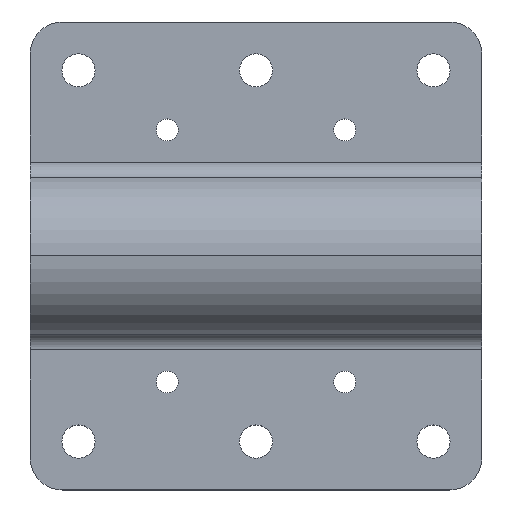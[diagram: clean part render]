
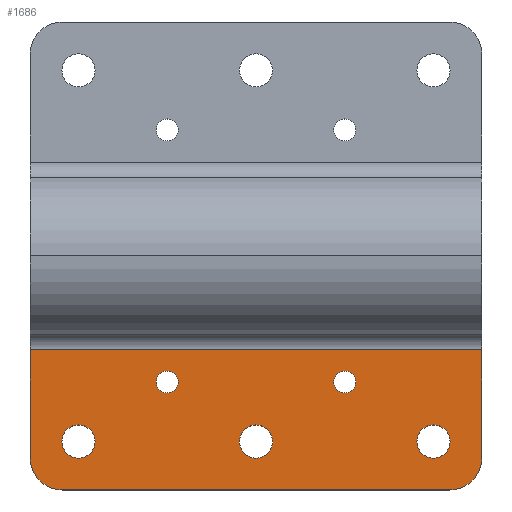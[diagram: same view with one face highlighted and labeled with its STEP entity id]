
A CAD part, top view. The second image highlights one B-rep face of the part: STEP entity #1686.
In plain terms, the highlighted planar face has unit normal (0, 0, 1).
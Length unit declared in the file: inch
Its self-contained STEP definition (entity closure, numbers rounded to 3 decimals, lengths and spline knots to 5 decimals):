
#26 = CARTESIAN_POINT ( 'NONE',  ( -1.75, 0.6, 0.125 ) ) ;
#38 = CIRCLE ( 'NONE', #898, 0.25 ) ;
#49 = VECTOR ( 'NONE', #852, 39.37008 ) ;
#51 = EDGE_CURVE ( 'NONE', #819, #878, #78, .T. ) ;
#58 = CARTESIAN_POINT ( 'NONE',  ( 0., 0., 0.125 ) ) ;
#61 = DIRECTION ( 'NONE',  ( 0., -1., 0. ) ) ;
#78 = CIRCLE ( 'NONE', #952, 0.25 ) ;
#95 = DIRECTION ( 'NONE',  ( 0., 0., 1. ) ) ;
#114 = CARTESIAN_POINT ( 'NONE',  ( -1.5035, 0.725, 0.125 ) ) ;
#140 = VERTEX_POINT ( 'NONE', #2581 ) ;
#149 = CARTESIAN_POINT ( 'NONE',  ( 1.375, 0.725, 0.125 ) ) ;
#154 = ORIENTED_EDGE ( 'NONE', *, *, #398, .T. ) ;
#175 = ORIENTED_EDGE ( 'NONE', *, *, #880, .T. ) ;
#181 = LINE ( 'NONE', #658, #49 ) ;
#232 = CARTESIAN_POINT ( 'NONE',  ( -1.75, 1.43632, 0.125 ) ) ;
#242 = DIRECTION ( 'NONE',  ( 0., -1., 0. ) ) ;
#274 = DIRECTION ( 'NONE',  ( 1., 0., 0. ) ) ;
#279 = ORIENTED_EDGE ( 'NONE', *, *, #558, .T. ) ;
#303 = EDGE_CURVE ( 'NONE', #1390, #1741, #38, .T. ) ;
#323 = FACE_BOUND ( 'NONE', #2411, .T. ) ;
#324 = EDGE_CURVE ( 'NONE', #1332, #967, #1663, .T. ) ;
#327 = AXIS2_PLACEMENT_3D ( 'NONE', #400, #1718, #1034 ) ;
#333 = DIRECTION ( 'NONE',  ( 0., 0., -1. ) ) ;
#350 = CARTESIAN_POINT ( 'NONE',  ( 0., 0.725, 0.125 ) ) ;
#354 = ORIENTED_EDGE ( 'NONE', *, *, #2623, .T. ) ;
#367 = DIRECTION ( 'NONE',  ( 1., 0., 0. ) ) ;
#371 = DIRECTION ( 'NONE',  ( 0., 0., -1. ) ) ;
#398 = EDGE_CURVE ( 'NONE', #2743, #2585, #2093, .T. ) ;
#400 = CARTESIAN_POINT ( 'NONE',  ( 0.6875, 1.18632, 0.125 ) ) ;
#426 = CIRCLE ( 'NONE', #2364, 0.085 ) ;
#434 = CIRCLE ( 'NONE', #327, 0.085 ) ;
#440 = DIRECTION ( 'NONE',  ( 0., 0., 1. ) ) ;
#506 = CARTESIAN_POINT ( 'NONE',  ( -0.6875, 1.27132, 0.125 ) ) ;
#511 = AXIS2_PLACEMENT_3D ( 'NONE', #1151, #2656, #1367 ) ;
#531 = CARTESIAN_POINT ( 'NONE',  ( 1.375, 0.725, 0.125 ) ) ;
#554 = LINE ( 'NONE', #26, #1610 ) ;
#555 = DIRECTION ( 'NONE',  ( -1., 0., 0. ) ) ;
#556 = VECTOR ( 'NONE', #2478, 39.37008 ) ;
#558 = EDGE_CURVE ( 'NONE', #1323, #1706, #1768, .T. ) ;
#563 = DIRECTION ( 'NONE',  ( 1., 0., 0. ) ) ;
#564 = CARTESIAN_POINT ( 'NONE',  ( 1.2465, 0.725, 0.125 ) ) ;
#573 = AXIS2_PLACEMENT_3D ( 'NONE', #1016, #2519, #1237 ) ;
#579 = CARTESIAN_POINT ( 'NONE',  ( 1.5035, 0.725, 0.125 ) ) ;
#632 = AXIS2_PLACEMENT_3D ( 'NONE', #1631, #371, #1846 ) ;
#658 = CARTESIAN_POINT ( 'NONE',  ( 0., 0.35, 0.125 ) ) ;
#731 = DIRECTION ( 'NONE',  ( 1., 0., 0. ) ) ;
#819 = VERTEX_POINT ( 'NONE', #1800 ) ;
#829 = VERTEX_POINT ( 'NONE', #114 ) ;
#852 = DIRECTION ( 'NONE',  ( 1., 0., 0. ) ) ;
#875 = FACE_BOUND ( 'NONE', #2486, .T. ) ;
#878 = VERTEX_POINT ( 'NONE', #2036 ) ;
#879 = EDGE_CURVE ( 'NONE', #1706, #1323, #2598, .T. ) ;
#880 = EDGE_CURVE ( 'NONE', #1660, #2455, #888, .T. ) ;
#888 = LINE ( 'NONE', #2688, #2529 ) ;
#898 = AXIS2_PLACEMENT_3D ( 'NONE', #1360, #95, #1576 ) ;
#912 = CARTESIAN_POINT ( 'NONE',  ( 0.1285, 0.725, 0.125 ) ) ;
#915 = ORIENTED_EDGE ( 'NONE', *, *, #303, .T. ) ;
#923 = ORIENTED_EDGE ( 'NONE', *, *, #2709, .T. ) ;
#952 = AXIS2_PLACEMENT_3D ( 'NONE', #1703, #440, #1914 ) ;
#967 = VERTEX_POINT ( 'NONE', #579 ) ;
#1016 = CARTESIAN_POINT ( 'NONE',  ( 0., 0.725, 0.125 ) ) ;
#1019 = EDGE_CURVE ( 'NONE', #1140, #2071, #434, .T. ) ;
#1034 = DIRECTION ( 'NONE',  ( 0., -1., 0. ) ) ;
#1045 = AXIS2_PLACEMENT_3D ( 'NONE', #531, #2010, #731 ) ;
#1064 = AXIS2_PLACEMENT_3D ( 'NONE', #1601, #333, #1816 ) ;
#1135 = CARTESIAN_POINT ( 'NONE',  ( -1.5, 0.35, 0.125 ) ) ;
#1140 = VERTEX_POINT ( 'NONE', #2622 ) ;
#1151 = CARTESIAN_POINT ( 'NONE',  ( -1.375, 0.725, 0.125 ) ) ;
#1176 = CIRCLE ( 'NONE', #1521, 0.1285 ) ;
#1181 = CARTESIAN_POINT ( 'NONE',  ( -0.6875, 1.18632, 0.125 ) ) ;
#1235 = ORIENTED_EDGE ( 'NONE', *, *, #879, .T. ) ;
#1237 = DIRECTION ( 'NONE',  ( 1., 0., 0. ) ) ;
#1244 = CIRCLE ( 'NONE', #632, 0.1285 ) ;
#1275 = ORIENTED_EDGE ( 'NONE', *, *, #2397, .T. ) ;
#1283 = CARTESIAN_POINT ( 'NONE',  ( -0.6875, 1.10132, 0.125 ) ) ;
#1323 = VERTEX_POINT ( 'NONE', #2462 ) ;
#1330 = DIRECTION ( 'NONE',  ( 0., 0., -1. ) ) ;
#1332 = VERTEX_POINT ( 'NONE', #564 ) ;
#1348 = EDGE_CURVE ( 'NONE', #829, #140, #1244, .T. ) ;
#1360 = CARTESIAN_POINT ( 'NONE',  ( -1.5, 0.6, 0.125 ) ) ;
#1367 = DIRECTION ( 'NONE',  ( 1., 0., 0. ) ) ;
#1375 = FACE_BOUND ( 'NONE', #2433, .T. ) ;
#1390 = VERTEX_POINT ( 'NONE', #1424 ) ;
#1395 = DIRECTION ( 'NONE',  ( 0., -1., 0. ) ) ;
#1424 = CARTESIAN_POINT ( 'NONE',  ( -1.75, 0.6, 0.125 ) ) ;
#1455 = ORIENTED_EDGE ( 'NONE', *, *, #1919, .T. ) ;
#1456 = ORIENTED_EDGE ( 'NONE', *, *, #2047, .T. ) ;
#1521 = AXIS2_PLACEMENT_3D ( 'NONE', #149, #1628, #367 ) ;
#1525 = CARTESIAN_POINT ( 'NONE',  ( 1.75, 1.43632, 0.125 ) ) ;
#1527 = EDGE_LOOP ( 'NONE', ( #1275, #2597, #2408, #175, #1828, #915 ) ) ;
#1541 = CIRCLE ( 'NONE', #1064, 0.085 ) ;
#1551 = CARTESIAN_POINT ( 'NONE',  ( 0.6875, 1.27132, 0.125 ) ) ;
#1576 = DIRECTION ( 'NONE',  ( -1., 0., 0. ) ) ;
#1601 = CARTESIAN_POINT ( 'NONE',  ( 0.6875, 1.18632, 0.125 ) ) ;
#1610 = VECTOR ( 'NONE', #242, 39.37008 ) ;
#1620 = AXIS2_PLACEMENT_3D ( 'NONE', #1181, #2687, #1395 ) ;
#1628 = DIRECTION ( 'NONE',  ( 0., 0., -1. ) ) ;
#1631 = CARTESIAN_POINT ( 'NONE',  ( -1.375, 0.725, 0.125 ) ) ;
#1660 = VERTEX_POINT ( 'NONE', #1525 ) ;
#1663 = CIRCLE ( 'NONE', #1045, 0.1285 ) ;
#1686 = ADVANCED_FACE ( 'NONE', ( #2586, #1944, #2016, #875, #323, #1375 ), #2605, .T. ) ;
#1703 = CARTESIAN_POINT ( 'NONE',  ( 1.5, 0.6, 0.125 ) ) ;
#1706 = VERTEX_POINT ( 'NONE', #912 ) ;
#1718 = DIRECTION ( 'NONE',  ( 0., 0., -1. ) ) ;
#1741 = VERTEX_POINT ( 'NONE', #1135 ) ;
#1768 = CIRCLE ( 'NONE', #573, 0.1285 ) ;
#1796 = AXIS2_PLACEMENT_3D ( 'NONE', #350, #1823, #563 ) ;
#1800 = CARTESIAN_POINT ( 'NONE',  ( 1.5, 0.35, 0.125 ) ) ;
#1816 = DIRECTION ( 'NONE',  ( 0., -1., 0. ) ) ;
#1823 = DIRECTION ( 'NONE',  ( 0., 0., -1. ) ) ;
#1828 = ORIENTED_EDGE ( 'NONE', *, *, #2451, .T. ) ;
#1846 = DIRECTION ( 'NONE',  ( 1., 0., 0. ) ) ;
#1914 = DIRECTION ( 'NONE',  ( 1., 0., 0. ) ) ;
#1919 = EDGE_CURVE ( 'NONE', #967, #1332, #1176, .T. ) ;
#1933 = EDGE_CURVE ( 'NONE', #878, #1660, #2306, .T. ) ;
#1944 = FACE_BOUND ( 'NONE', #2432, .T. ) ;
#1949 = DIRECTION ( 'NONE',  ( 0., 0., 1. ) ) ;
#1995 = AXIS2_PLACEMENT_3D ( 'NONE', #58, #1949, #274 ) ;
#2010 = DIRECTION ( 'NONE',  ( 0., 0., -1. ) ) ;
#2016 = FACE_BOUND ( 'NONE', #2643, .T. ) ;
#2036 = CARTESIAN_POINT ( 'NONE',  ( 1.75, 0.6, 0.125 ) ) ;
#2043 = ORIENTED_EDGE ( 'NONE', *, *, #1019, .T. ) ;
#2047 = EDGE_CURVE ( 'NONE', #2585, #2743, #426, .T. ) ;
#2060 = CARTESIAN_POINT ( 'NONE',  ( 1.75, 0.6, 0.125 ) ) ;
#2071 = VERTEX_POINT ( 'NONE', #1551 ) ;
#2093 = CIRCLE ( 'NONE', #1620, 0.085 ) ;
#2306 = LINE ( 'NONE', #2060, #556 ) ;
#2364 = AXIS2_PLACEMENT_3D ( 'NONE', #2618, #1330, #61 ) ;
#2397 = EDGE_CURVE ( 'NONE', #1741, #819, #181, .T. ) ;
#2408 = ORIENTED_EDGE ( 'NONE', *, *, #1933, .T. ) ;
#2411 = EDGE_LOOP ( 'NONE', ( #2043, #923 ) ) ;
#2432 = EDGE_LOOP ( 'NONE', ( #354, #2575 ) ) ;
#2433 = EDGE_LOOP ( 'NONE', ( #154, #1456 ) ) ;
#2435 = CIRCLE ( 'NONE', #511, 0.1285 ) ;
#2451 = EDGE_CURVE ( 'NONE', #2455, #1390, #554, .T. ) ;
#2455 = VERTEX_POINT ( 'NONE', #232 ) ;
#2462 = CARTESIAN_POINT ( 'NONE',  ( -0.1285, 0.725, 0.125 ) ) ;
#2478 = DIRECTION ( 'NONE',  ( 0., 1., 0. ) ) ;
#2486 = EDGE_LOOP ( 'NONE', ( #1455, #2544 ) ) ;
#2519 = DIRECTION ( 'NONE',  ( 0., 0., -1. ) ) ;
#2529 = VECTOR ( 'NONE', #555, 39.37008 ) ;
#2544 = ORIENTED_EDGE ( 'NONE', *, *, #324, .T. ) ;
#2575 = ORIENTED_EDGE ( 'NONE', *, *, #1348, .T. ) ;
#2581 = CARTESIAN_POINT ( 'NONE',  ( -1.2465, 0.725, 0.125 ) ) ;
#2585 = VERTEX_POINT ( 'NONE', #506 ) ;
#2586 = FACE_OUTER_BOUND ( 'NONE', #1527, .T. ) ;
#2597 = ORIENTED_EDGE ( 'NONE', *, *, #51, .T. ) ;
#2598 = CIRCLE ( 'NONE', #1796, 0.1285 ) ;
#2605 = PLANE ( 'NONE',  #1995 ) ;
#2618 = CARTESIAN_POINT ( 'NONE',  ( -0.6875, 1.18632, 0.125 ) ) ;
#2622 = CARTESIAN_POINT ( 'NONE',  ( 0.6875, 1.10132, 0.125 ) ) ;
#2623 = EDGE_CURVE ( 'NONE', #140, #829, #2435, .T. ) ;
#2643 = EDGE_LOOP ( 'NONE', ( #1235, #279 ) ) ;
#2656 = DIRECTION ( 'NONE',  ( 0., 0., -1. ) ) ;
#2687 = DIRECTION ( 'NONE',  ( 0., 0., -1. ) ) ;
#2688 = CARTESIAN_POINT ( 'NONE',  ( 1.5, 1.43632, 0.125 ) ) ;
#2709 = EDGE_CURVE ( 'NONE', #2071, #1140, #1541, .T. ) ;
#2743 = VERTEX_POINT ( 'NONE', #1283 ) ;
